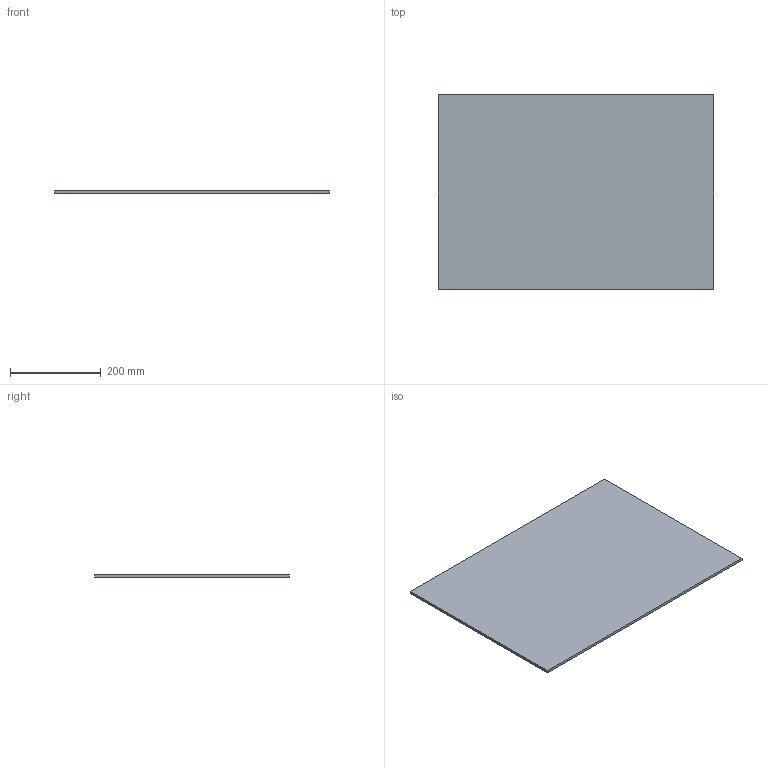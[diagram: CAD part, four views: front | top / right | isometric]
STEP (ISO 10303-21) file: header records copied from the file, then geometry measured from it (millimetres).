
FILE_DESCRIPTION (( 'STEP AP214' ), '1' );
FILE_NAME ('Lochblech_NL450_KAB700_16.step', '2010-10-11T13:38:27', ( 'grass' ), ( '' ), 'SwSTEP 2.0', 'SolidWorks 2010', '' );
FILE_SCHEMA (( 'AUTOMOTIVE_DESIGN' ));
Length unit declared in the file: millimetre
Products named in the file (1): Lochblech_NL450_KAB700_16
Bounding box: 608 x 429 x 6 mm (x, y, z)
Volume: 1564992 mm3; surface area: 534108 mm2
Topology: 1 solids, 1 shells, 6 faces, 12 edges, 8 vertices
Faces by surface type: plane 6
Entity records: 190 total; most frequent: CARTESIAN_POINT 27, DIRECTION 26, ORIENTED_EDGE 24, EDGE_CURVE 12, LINE 12, VECTOR 12, VERTEX_POINT 8, AXIS2_PLACEMENT_3D 7
